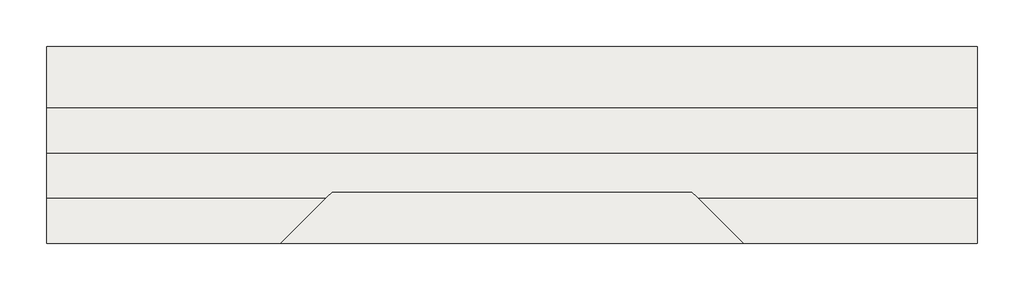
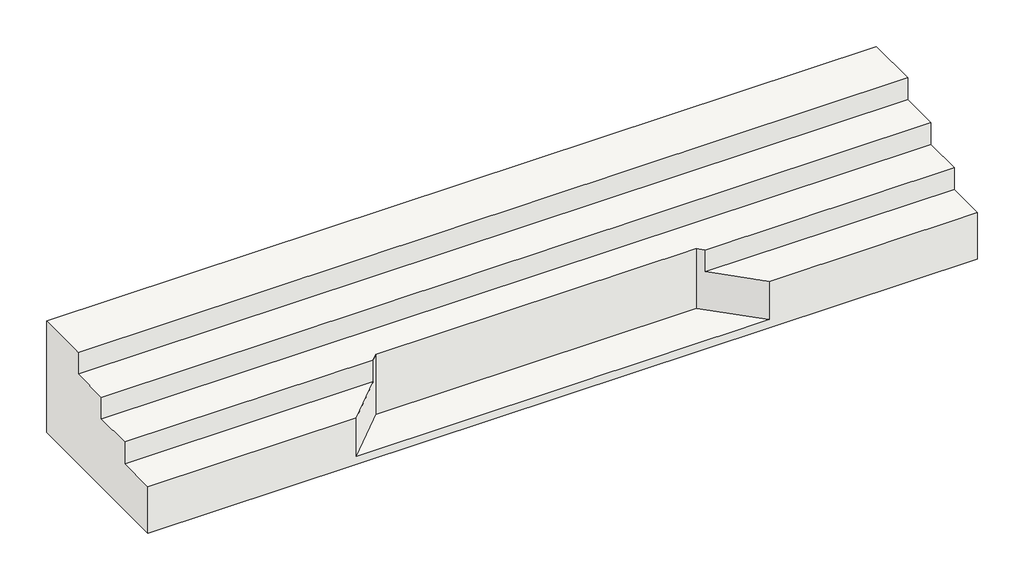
# One storey: 1 slab.
"""IFC4 building model written with IfcOpenShell, lengths in millimetres."""

import ifcopenshell
import ifcopenshell.guid

model = None  # the IFC model being written
_history = None  # IfcOwnerHistory: only IFC2X3 demands one
_inside = {}  # id of a spatial element -> (the spatial element, [elements in it])
_under = {}  # id of a project, library or spatial element -> (it, [spatial elements below it])
_declared = {}  # id of a project -> (the project, [libraries it declares])
_typed = {}  # id of a type object -> (the type object, [elements of that type])
_made_of = {}  # id of a material, layer set ... -> (it, [elements and type objects made of it])


def new_model(schema):
    """Start an empty IFC model of exactly this schema.

    Asked for "IFC4X3", IfcOpenShell would pick the latest addendum, in which some entities
    have other attributes; the version numbers below select the first issue.
    IFC2X3 requires an IfcOwnerHistory on every rooted entity: one is made here for all.
    """
    global model, _history
    if schema == "IFC4X3":
        model = ifcopenshell.file(schema_version=(4, 3, 0, 0))
    else:
        model = ifcopenshell.file(schema=schema)
    _inside.clear()
    _under.clear()
    _declared.clear()
    _typed.clear()
    _made_of.clear()
    _history = None
    if model.schema == "IFC2X3":
        org = make("IfcOrganization", Name="unknown")
        user = make(
            "IfcPersonAndOrganization",
            ThePerson=make("IfcPerson", FamilyName="unknown"),
            TheOrganization=org,
        )
        app = make(
            "IfcApplication",
            ApplicationDeveloper=org,
            Version="unknown",
            ApplicationFullName="unknown",
            ApplicationIdentifier="unknown",
        )
        _history = make(
            "IfcOwnerHistory",
            OwningUser=user,
            OwningApplication=app,
            ChangeAction="ADDED",
            CreationDate=0,
        )
    return model


def make(cls, **values):
    """One entity of the class cls with the attributes given. An attribute that is None is left unset."""
    return model.create_entity(
        cls, **{name: value for name, value in values.items() if value is not None}
    )


def rooted(cls, **values):
    """An entity with a GlobalId (a new one), such as an element, a storey or a relation."""
    return make(cls, GlobalId=ifcopenshell.guid.new(), OwnerHistory=_history, **values)


def si_unit(unit_type, name, prefix=None):
    """IfcSIUnit, for example si_unit("LENGTHUNIT", "METRE", prefix="MILLI")."""
    return make("IfcSIUnit", UnitType=unit_type, Prefix=prefix, Name=name)


def assignment(units):
    """IfcUnitAssignment: the units of a project."""
    return None if units is None else make("IfcUnitAssignment", Units=units)


def point(xyz):
    """IfcCartesianPoint."""
    return None if xyz is None else make("IfcCartesianPoint", Coordinates=xyz)


def direction(xyz):
    """IfcDirection."""
    return None if xyz is None else make("IfcDirection", DirectionRatios=xyz)


def frame(location, z_axis=None, x_axis=None):
    """IfcAxis2Placement3D, a coordinate frame: its origin and axes. An axis left out is left unset."""
    return make(
        "IfcAxis2Placement3D",
        Location=point(location),
        Axis=direction(z_axis),
        RefDirection=direction(x_axis),
    )


def origin():
    """The frame at (0, 0, 0) with its axes left unset."""
    return frame((0.0, 0.0, 0.0))


def place(relative_to, where):
    """IfcLocalPlacement: puts the frame where relative to a parent placement (None: the world)."""
    return make(
        "IfcLocalPlacement", PlacementRelTo=relative_to, RelativePlacement=where
    )


def context(
    kind, dimensions, precision=None, world=None, true_north=None, identifier=None
):
    """IfcGeometricRepresentationContext, for example the 3D "Model" context."""
    return make(
        "IfcGeometricRepresentationContext",
        ContextIdentifier=identifier,
        ContextType=kind,
        CoordinateSpaceDimension=dimensions,
        Precision=precision,
        WorldCoordinateSystem=world,
        TrueNorth=true_north,
    )


def project(units=None, contexts=None):
    """IfcProject with its units and contexts."""
    return rooted(
        "IfcProject",
        Name="project",
        RepresentationContexts=contexts,
        UnitsInContext=assignment(units),
    )


def spatial(cls, under=None, at=None, **own):
    """A site, building, storey or space (cls), placed at a placement, below another one or the project."""
    s = rooted(cls, ObjectPlacement=at, **own)
    if under is not None:
        _under.setdefault(under.id(), (under, []))[1].append(s)
    return s


def faces_of(points, faces, orient=None, outer=None):
    """IfcFace entities. A face is a list of loops; a loop is a list of indices into points, from 0.

    orient and outer hold one flag for each loop. By default every Orientation is true, the
    first loop of a face is its IfcFaceOuterBound and the others are IfcFaceBound.
    """
    made = []
    for i, loops in enumerate(faces):
        bounds = []
        for j, loop in enumerate(loops):
            is_outer = j == 0 if outer is None else outer[i][j]
            bounds.append(
                make(
                    "IfcFaceOuterBound" if is_outer else "IfcFaceBound",
                    Bound=make("IfcPolyLoop", Polygon=[points[k] for k in loop]),
                    Orientation=True if orient is None else orient[i][j],
                )
            )
        made.append(make("IfcFace", Bounds=bounds))
    return made


def faceted_brep(points, faces, orient=None, outer=None, voids=None):
    """IfcFacetedBrep: a solid bounded by flat faces; with voids (closed shells), ...WithVoids."""
    shared = [point(p) for p in points]
    hull = make("IfcClosedShell", CfsFaces=faces_of(shared, faces, orient, outer))
    if voids is None:
        return make("IfcFacetedBrep", Outer=hull)
    return make(
        "IfcFacetedBrepWithVoids",
        Outer=hull,
        Voids=[
            make(cls, CfsFaces=faces_of(shared, fs, o, b)) for cls, fs, o, b in voids
        ],
    )


def shape(context_of_items, identifier, shape_type, items):
    """IfcShapeRepresentation: the items that make up one representation, for example the "Body"."""
    return make(
        "IfcShapeRepresentation",
        ContextOfItems=context_of_items,
        RepresentationIdentifier=identifier,
        RepresentationType=shape_type,
        Items=items,
    )


def made_of(thing, what):
    """Note that an element or type object is made of a material, layer set ...; save() writes the relation."""
    if what is not None:
        _made_of.setdefault(what.id(), (what, []))[1].append(thing)
    return thing


def element(
    cls,
    number,
    at=None,
    inside=None,
    cuts=None,
    type_object=None,
    material=None,
    context=None,
    identifier="Body",
    shape_type=None,
    held_by="IfcProductDefinitionShape",
    body=None,
    shapes=None,
    **own,
):
    """One element of the class cls, such as IfcWall. Its Tag is "e" and its number.

    at: its placement. inside: the storey or other place that contains it. cuts: it is an
    opening in that element (IfcRelVoidsElement). A single representation is given by context,
    identifier, shape_type and body (its items); several are given by shapes. held_by: the class
    of the entity that holds the representations. save() writes the other relations.
    """
    e = rooted(cls, Tag="e%d" % number, ObjectPlacement=at, **own)
    if body is not None:
        shapes = [shape(context, identifier, shape_type, body)]
    if shapes is not None:
        e.Representation = make(held_by, Representations=shapes)
    if inside is not None:
        _inside.setdefault(inside.id(), (inside, []))[1].append(e)
    if cuts is not None:
        rooted(
            "IfcRelVoidsElement", RelatingBuildingElement=cuts, RelatedOpeningElement=e
        )
    if type_object is not None:
        _typed.setdefault(type_object.id(), (type_object, []))[1].append(e)
    return made_of(e, material)


def aggregate(whole, parts):
    """IfcRelAggregates: a whole, such as a stair, and the parts it consists of."""
    return rooted("IfcRelAggregates", RelatingObject=whole, RelatedObjects=parts)


def save(model, path):
    """Write the relations noted so far, then the file.

    IfcRelAggregates (storeys below a building ...), IfcRelContainedInSpatialStructure (elements
    in a storey), IfcRelDefinesByType, IfcRelAssociatesMaterial and IfcRelDeclares: one each for
    every whole, place, type object, material and project.
    """
    for whole, parts in _under.values():
        aggregate(whole, parts)
    for where, things in _inside.values():
        rooted(
            "IfcRelContainedInSpatialStructure",
            RelatedElements=things,
            RelatingStructure=where,
        )
    for kind, things in _typed.values():
        rooted("IfcRelDefinesByType", RelatedObjects=things, RelatingType=kind)
    for what, things in _made_of.values():
        rooted("IfcRelAssociatesMaterial", RelatedObjects=things, RelatingMaterial=what)
    for by, libraries in _declared.values():
        rooted("IfcRelDeclares", RelatingContext=by, RelatedDefinitions=libraries)
    model.write(path)


model = new_model("IFC4")

# Units and contexts
model_context = context("Model", 3, world=origin())
ifc_project = project(units=[si_unit("LENGTHUNIT", "METRE", prefix="MILLI")], contexts=[model_context])

# Site, building, storey
site = spatial("IfcSite", under=ifc_project)
building = spatial("IfcBuilding", under=site)
storey = spatial("IfcBuildingStorey", under=building, Name="Nível 2", Elevation=3000.0)

# Slab
placement = place(None, origin())
element("IfcSlab", 1, ObjectType="Pisos 1 : Pisos 1", at=placement, inside=storey, context=model_context, shape_type="Brep", body=[
    faceted_brep([(-4355.4468393, 2440.7417523, 700.0), (-4355.4468393, 2440.7417523, 1100.0), (-4355.4468393, 3140.7417523, 1100.0), (-4355.4468393, 3140.7417523, 1500.0), (-4355.4468393, 3840.7417523, 1500.0), (-4355.4468393, 3840.7417523, 1900.0), (-4355.4468393, 4790.7417523, 1900.0), (-4355.4468393, 4790.7417523, -150.0), (-4355.4468393, 1740.7417523, -150.0), (-4355.4468393, 1740.7417523, 700.0), (10044.5531607, 2440.7417523, 700.0), (10044.5531607, 1740.7417523, 700.0), (10044.5531607, 1740.7417523, -150.0), (10044.5531607, 4790.7417523, -150.0), (10044.5531607, 4790.7417523, 1900.0), (10044.5531607, 3840.7417523, 1900.0), (10044.5531607, 3840.7417523, 1500.0), (10044.5531607, 3140.7417523, 1500.0), (10044.5531607, 3140.7417523, 1100.0), (10044.5531607, 2440.7417523, 1100.0), (-38.7709407, 2440.7417523, 700.0), (-38.7709407, 2440.7417523, 1100.0), (61.1384588, 2540.7417523, 1100.0), (5627.2816225, 2540.7417523, 1100.0), (5727.2816225, 2440.7417523, 1100.0), (6427.2816225, 1740.7417523, 700.0), (6427.2816225, 1740.7417523, 0.0), (-738.1367372, 1740.7417523, 0.0), (-738.1367372, 1740.7417523, 700.0), (5627.2816225, 2540.7417523, 0.0), (61.1384588, 2540.7417523, 0.0), (5727.2816225, 2440.7417523, 700.0)], [[[0, 1, 2, 3, 4, 5, 6, 7, 8, 9]], [[10, 11, 12, 13, 14, 15, 16, 17, 18, 19]], [[1, 0, 20, 21]], [[2, 1, 21, 22, 23, 24, 19, 18]], [[3, 2, 18, 17]], [[4, 3, 17, 16]], [[5, 4, 16, 15]], [[6, 5, 15, 14]], [[7, 6, 14, 13]], [[8, 7, 13, 12]], [[9, 8, 12, 11, 25, 26, 27, 28]], [[0, 9, 28, 20]], [[29, 30, 27, 26]], [[30, 29, 23, 22]], [[27, 30, 22, 21, 20, 28]], [[29, 26, 25, 31, 24, 23]], [[10, 19, 24, 31]], [[11, 10, 31, 25]]]),
])

save(model, "model.ifc")
